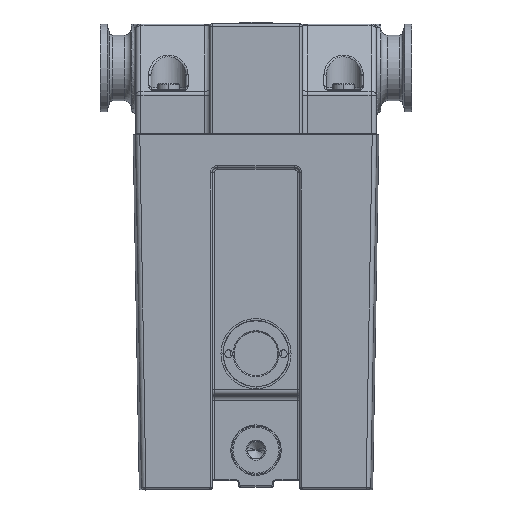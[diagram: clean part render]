
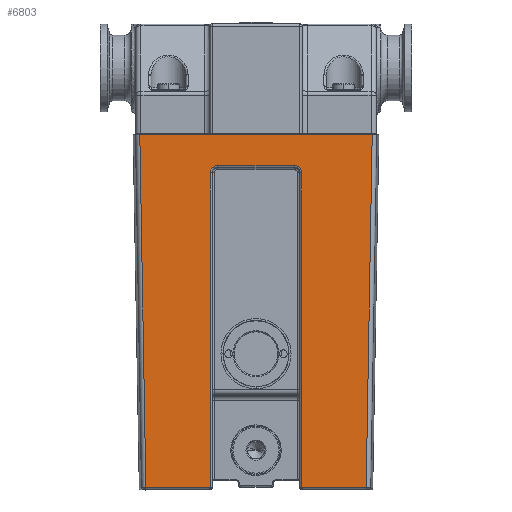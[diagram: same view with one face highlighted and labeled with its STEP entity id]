
A CAD part, top view. The second image highlights one B-rep face of the part: STEP entity #6803.
In plain terms, the highlighted planar face has unit normal (0, -0.018, 1).
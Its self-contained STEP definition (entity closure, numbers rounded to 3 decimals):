
#111=CARTESIAN_POINT('',(21.,0.983,59.689));
#112=CARTESIAN_POINT('',(20.948,0.986,59.689));
#113=CARTESIAN_POINT('',(20.9,1.031,59.69));
#114=CARTESIAN_POINT('',(20.9,1.083,59.691));
#116=CARTESIAN_POINT('',(-21.,0.983,59.689));
#117=CARTESIAN_POINT('',(-20.948,0.984,59.689));
#118=CARTESIAN_POINT('',(-20.9,1.031,59.69));
#119=CARTESIAN_POINT('',(-20.9,1.083,59.691));
#125=DIRECTION('',(-1.,0.,0.));
#126=VECTOR('',#125,29.273);
#127=CARTESIAN_POINT('',(-21.,0.983,59.689));
#128=LINE('',#127,#126);
#660=CARTESIAN_POINT('',(-17.5,147.884,62.254));
#661=CARTESIAN_POINT('',(-17.635,147.884,62.254));
#662=CARTESIAN_POINT('',(-17.92,147.869,62.253));
#663=CARTESIAN_POINT('',(-18.406,147.775,62.252));
#664=CARTESIAN_POINT('',(-18.922,147.59,62.248));
#665=CARTESIAN_POINT('',(-19.429,147.305,62.243));
#666=CARTESIAN_POINT('',(-19.894,146.924,62.237));
#667=CARTESIAN_POINT('',(-20.286,146.464,62.229));
#668=CARTESIAN_POINT('',(-20.585,145.951,62.22));
#669=CARTESIAN_POINT('',(-20.783,145.423,62.211));
#670=CARTESIAN_POINT('',(-20.883,144.919,62.202));
#671=CARTESIAN_POINT('',(-20.9,144.624,62.197));
#672=CARTESIAN_POINT('',(-20.9,144.484,62.194));
#684=DIRECTION('',(0.,-1.,-0.017));
#685=VECTOR('',#684,143.423);
#686=CARTESIAN_POINT('',(-20.9,144.484,62.194));
#687=LINE('',#686,#685);
#701=DIRECTION('',(-1.,0.,0.));
#702=VECTOR('',#701,35.);
#703=CARTESIAN_POINT('',(17.5,147.884,62.254));
#704=LINE('',#703,#702);
#732=CARTESIAN_POINT('',(20.9,144.484,62.194));
#733=CARTESIAN_POINT('',(20.9,144.62,62.197));
#734=CARTESIAN_POINT('',(20.884,144.907,62.202));
#735=CARTESIAN_POINT('',(20.79,145.396,62.21));
#736=CARTESIAN_POINT('',(20.602,145.915,62.219));
#737=CARTESIAN_POINT('',(20.314,146.423,62.228));
#738=CARTESIAN_POINT('',(19.93,146.888,62.236));
#739=CARTESIAN_POINT('',(19.469,147.278,62.243));
#740=CARTESIAN_POINT('',(18.958,147.574,62.248));
#741=CARTESIAN_POINT('',(18.432,147.769,62.252));
#742=CARTESIAN_POINT('',(17.931,147.868,62.253));
#743=CARTESIAN_POINT('',(17.638,147.884,62.254));
#744=CARTESIAN_POINT('',(17.5,147.884,62.254));
#760=DIRECTION('',(0.,1.,0.017));
#761=VECTOR('',#760,143.423);
#762=CARTESIAN_POINT('',(20.9,1.083,59.691));
#763=LINE('',#762,#761);
#1248=CARTESIAN_POINT('',(50.273,0.983,59.689));
#1255=DIRECTION('',(-1.,0.,0.));
#1256=VECTOR('',#1255,29.273);
#1257=CARTESIAN_POINT('',(50.273,0.983,59.689));
#1258=LINE('',#1257,#1256);
#1284=DIRECTION('',(-0.017,-1.,-0.017));
#1285=VECTOR('',#1284,161.066);
#1286=CARTESIAN_POINT('',(53.035,162.,62.5));
#1287=LINE('',#1286,#1285);
#1288=CARTESIAN_POINT('',(53.035,162.,62.5));
#1318=DIRECTION('',(1.,0.,0.));
#1319=VECTOR('',#1318,106.07);
#1320=CARTESIAN_POINT('',(-53.035,162.,62.5));
#1321=LINE('',#1320,#1319);
#1406=CARTESIAN_POINT('',(-53.035,162.,62.5));
#1408=DIRECTION('',(0.017,-1.,-0.017));
#1409=VECTOR('',#1408,161.066);
#1410=CARTESIAN_POINT('',(-53.035,162.,62.5));
#1411=LINE('',#1410,#1409);
#5720=VERTEX_POINT('',#1406);
#5725=VERTEX_POINT('',#1288);
#6274=VERTEX_POINT('',#660);
#6275=VERTEX_POINT('',#672);
#6278=CARTESIAN_POINT('',(17.5,147.884,62.254));
#6279=VERTEX_POINT('',#6278);
#6281=VERTEX_POINT('',#732);
#6322=CARTESIAN_POINT('',(-21.,0.983,59.689));
#6323=CARTESIAN_POINT('',(-50.273,0.983,
59.689));
#6324=VERTEX_POINT('',#6322);
#6325=VERTEX_POINT('',#6323);
#6344=VERTEX_POINT('',#119);
#6375=VERTEX_POINT('',#1248);
#6376=CARTESIAN_POINT('',(21.,0.983,59.689));
#6377=VERTEX_POINT('',#6376);
#6398=CARTESIAN_POINT('',(20.9,1.083,59.691));
#6399=VERTEX_POINT('',#6398);
#6773=CARTESIAN_POINT('',(-58.8,162.,62.5));
#6774=DIRECTION('',(0.,-0.017,1.));
#6775=DIRECTION('',(1.,0.,0.));
#6776=AXIS2_PLACEMENT_3D('',#6773,#6774,#6775);
#6777=PLANE('',#6776);
#6779=ORIENTED_EDGE('',*,*,#6778,.T.);
#6781=ORIENTED_EDGE('',*,*,#6780,.F.);
#6783=ORIENTED_EDGE('',*,*,#6782,.T.);
#6785=ORIENTED_EDGE('',*,*,#6784,.T.);
#6787=ORIENTED_EDGE('',*,*,#6786,.T.);
#6789=ORIENTED_EDGE('',*,*,#6788,.T.);
#6791=ORIENTED_EDGE('',*,*,#6790,.T.);
#6793=ORIENTED_EDGE('',*,*,#6792,.T.);
#6795=ORIENTED_EDGE('',*,*,#6794,.T.);
#6797=ORIENTED_EDGE('',*,*,#6796,.T.);
#6799=ORIENTED_EDGE('',*,*,#6798,.T.);
#6800=ORIENTED_EDGE('',*,*,#6764,.F.);
#6801=EDGE_LOOP('',(#6779,#6781,#6783,#6785,#6787,#6789,#6791,#6793,#6795,#6797,
#6799,#6800));
#6802=FACE_OUTER_BOUND('',#6801,.F.);
#6803=ADVANCED_FACE('',(#6802),#6777,.T.);
#115=B_SPLINE_CURVE_WITH_KNOTS('',3,(#111,#112,#113,#114),.UNSPECIFIED.,.F.,.F.,
(4,4),(0.,1.),.UNSPECIFIED.);
#120=B_SPLINE_CURVE_WITH_KNOTS('',3,(#116,#117,#118,#119),.UNSPECIFIED.,.F.,.F.,
(4,4),(0.,1.),.UNSPECIFIED.);
#673=B_SPLINE_CURVE_WITH_KNOTS('',3,(#660,#661,#662,#663,#664,#665,#666,#667,
#668,#669,#670,#671,#672),.UNSPECIFIED.,.F.,.F.,(4,1,1,1,1,1,1,1,1,1,4),(0.,
0.1,0.2,0.3,0.4,0.5,0.6,0.7,0.8,0.9,1.),.UNSPECIFIED.);
#745=B_SPLINE_CURVE_WITH_KNOTS('',3,(#732,#733,#734,#735,#736,#737,#738,#739,
#740,#741,#742,#743,#744),.UNSPECIFIED.,.F.,.F.,(4,1,1,1,1,1,1,1,1,1,4),(0.,
0.1,0.2,0.3,0.4,0.5,0.6,0.7,0.8,0.9,1.),.UNSPECIFIED.);
#6764=EDGE_CURVE('',#6324,#6344,#120,.T.);
#6778=EDGE_CURVE('',#6324,#6325,#128,.T.);
#6780=EDGE_CURVE('',#5720,#6325,#1411,.T.);
#6782=EDGE_CURVE('',#5720,#5725,#1321,.T.);
#6784=EDGE_CURVE('',#5725,#6375,#1287,.T.);
#6786=EDGE_CURVE('',#6375,#6377,#1258,.T.);
#6788=EDGE_CURVE('',#6377,#6399,#115,.T.);
#6790=EDGE_CURVE('',#6399,#6281,#763,.T.);
#6792=EDGE_CURVE('',#6281,#6279,#745,.T.);
#6794=EDGE_CURVE('',#6279,#6274,#704,.T.);
#6796=EDGE_CURVE('',#6274,#6275,#673,.T.);
#6798=EDGE_CURVE('',#6275,#6344,#687,.T.);
